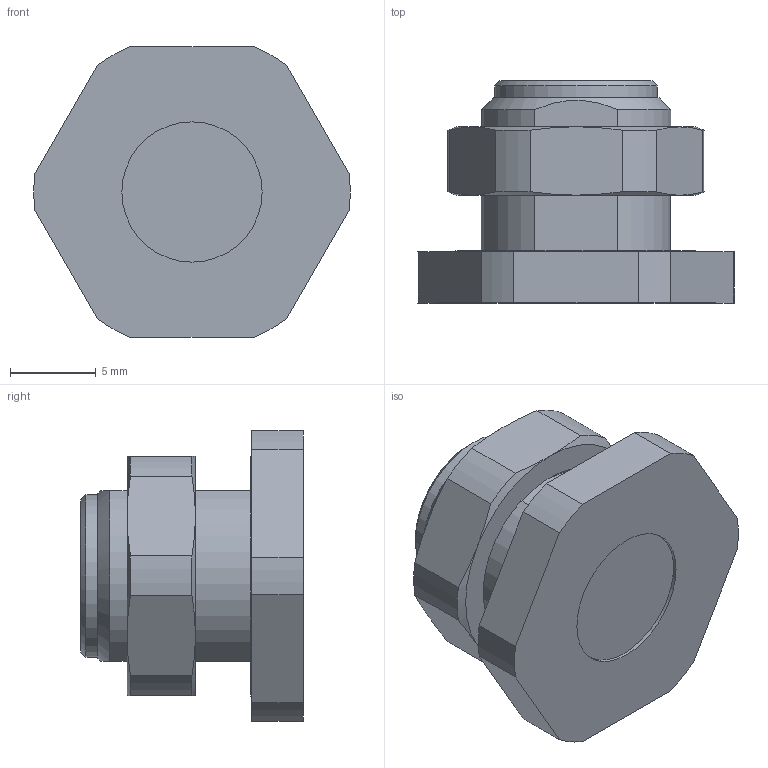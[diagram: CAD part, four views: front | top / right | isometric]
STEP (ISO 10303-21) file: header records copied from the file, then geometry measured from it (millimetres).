
FILE_DESCRIPTION((''),'2;1');
FILE_NAME('C:\TurckZip\MFKS-F-PCB.stp','2010-09-21T09:10:08',('IKOROL'),(''),'Autodesk Inventor 2010','Autodesk Inventor 2010','');
FILE_SCHEMA(('CONFIG_CONTROL_DESIGN'));
Length unit declared in the file: millimetre
Products named in the file (1): Part1
Bounding box: 18.49 x 13 x 17 mm (x, y, z)
Volume: 1809.3 mm3; surface area: 1693.2 mm2
Topology: 1 solids, 5 shells, 156 faces, 413 edges, 272 vertices
Faces by surface type: cylinder 97, plane 30, cone 21, torus 4, bspline 4
Full cylindrical faces by diameter (mm): 5.7 x2, 6.95 x1, 7.2 x2, 8.2 x1, 9.5 x1, 12.5 x2
Entity records: 5412 total; most frequent: CARTESIAN_POINT 1539, DIRECTION 768, ORIENTED_EDGE 754, EDGE_CURVE 377, AXIS2_PLACEMENT_3D 320, VERTEX_POINT 255, EDGE_LOOP 188, CIRCLE 167
